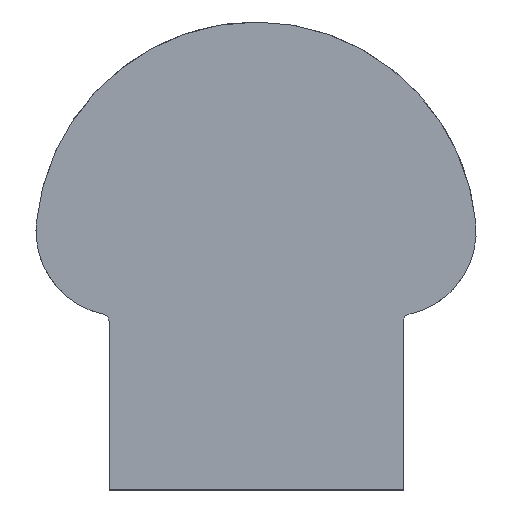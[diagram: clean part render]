
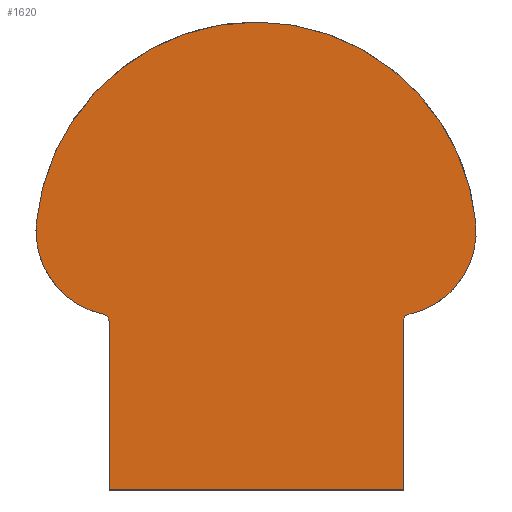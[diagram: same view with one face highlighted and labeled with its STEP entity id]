
A CAD part, left-side view. The second image highlights one B-rep face of the part: STEP entity #1620.
In plain terms, the highlighted planar face has unit normal (-1, 0, 0).
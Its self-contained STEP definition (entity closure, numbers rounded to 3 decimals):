
#86=PLANE('',#1778);
#168=FACE_OUTER_BOUND('',#272,.T.);
#272=EDGE_LOOP('',(#1362,#1363,#1364,#1365,#1366,#1367,#1368,#1369,#1370));
#339=CIRCLE('',#1760,1.384);
#341=CIRCLE('',#1763,15.943);
#343=CIRCLE('',#1766,41.454);
#345=CIRCLE('',#1769,41.454);
#347=CIRCLE('',#1772,15.943);
#349=CIRCLE('',#1775,1.384);
#461=LINE('',#3046,#604);
#465=LINE('',#3054,#608);
#468=LINE('',#3060,#611);
#604=VECTOR('',#2128,304.8);
#608=VECTOR('',#2134,304.8);
#611=VECTOR('',#2139,304.8);
#750=VERTEX_POINT('',#3044);
#751=VERTEX_POINT('',#3045);
#754=VERTEX_POINT('',#3053);
#756=VERTEX_POINT('',#3059);
#758=VERTEX_POINT('',#3065);
#760=VERTEX_POINT('',#3071);
#762=VERTEX_POINT('',#3077);
#764=VERTEX_POINT('',#3083);
#766=VERTEX_POINT('',#3089);
#952=EDGE_CURVE('',#750,#751,#461,.T.);
#956=EDGE_CURVE('',#751,#754,#465,.T.);
#959=EDGE_CURVE('',#754,#756,#468,.T.);
#962=EDGE_CURVE('',#756,#758,#339,.T.);
#965=EDGE_CURVE('',#758,#760,#341,.T.);
#968=EDGE_CURVE('',#760,#762,#343,.T.);
#971=EDGE_CURVE('',#762,#764,#345,.T.);
#974=EDGE_CURVE('',#764,#766,#347,.T.);
#977=EDGE_CURVE('',#766,#750,#349,.T.);
#1362=ORIENTED_EDGE('',*,*,#952,.T.);
#1363=ORIENTED_EDGE('',*,*,#956,.T.);
#1364=ORIENTED_EDGE('',*,*,#959,.T.);
#1365=ORIENTED_EDGE('',*,*,#962,.T.);
#1366=ORIENTED_EDGE('',*,*,#965,.T.);
#1367=ORIENTED_EDGE('',*,*,#968,.T.);
#1368=ORIENTED_EDGE('',*,*,#971,.T.);
#1369=ORIENTED_EDGE('',*,*,#974,.T.);
#1370=ORIENTED_EDGE('',*,*,#977,.T.);
#1620=ADVANCED_FACE('',(#168),#86,.T.);
#1760=AXIS2_PLACEMENT_3D('',#3066,#2144,#2145);
#1763=AXIS2_PLACEMENT_3D('',#3072,#2151,#2152);
#1766=AXIS2_PLACEMENT_3D('',#3078,#2158,#2159);
#1769=AXIS2_PLACEMENT_3D('',#3084,#2165,#2166);
#1772=AXIS2_PLACEMENT_3D('',#3090,#2172,#2173);
#1775=AXIS2_PLACEMENT_3D('',#3095,#2179,#2180);
#1778=AXIS2_PLACEMENT_3D('',#3098,#2185,#2186);
#2128=DIRECTION('',(0.,0.,-1.));
#2134=DIRECTION('',(0.,-1.,0.));
#2139=DIRECTION('',(0.,0.,1.));
#2144=DIRECTION('center_axis',(1.,0.,0.));
#2145=DIRECTION('ref_axis',(0.,0.,-1.));
#2151=DIRECTION('center_axis',(-1.,0.,0.));
#2152=DIRECTION('ref_axis',(0.,0.,
-1.));
#2158=DIRECTION('center_axis',(-1.,0.,0.));
#2159=DIRECTION('ref_axis',(0.,0.,
-1.));
#2165=DIRECTION('center_axis',(-1.,0.,0.));
#2166=DIRECTION('ref_axis',(0.,0.,
-1.));
#2172=DIRECTION('center_axis',(-1.,0.,0.));
#2173=DIRECTION('ref_axis',(0.,0.,
-1.));
#2179=DIRECTION('center_axis',(1.,0.,0.));
#2180=DIRECTION('ref_axis',(0.,0.,-1.));
#2185=DIRECTION('center_axis',(-1.,0.,0.));
#2186=DIRECTION('ref_axis',(0.,0.,-1.));
#3044=CARTESIAN_POINT('',(-142.5,27.5,31.508));
#3045=CARTESIAN_POINT('',(-142.5,27.5,0.));
#3046=CARTESIAN_POINT('',(-142.5,27.5,31.508));
#3053=CARTESIAN_POINT('',(-142.5,-27.5,0.));
#3054=CARTESIAN_POINT('',(-142.5,27.5,0.));
#3059=CARTESIAN_POINT('',(-142.5,-27.5,31.508));
#3060=CARTESIAN_POINT('',(-142.5,-27.5,0.));
#3065=CARTESIAN_POINT('',(-142.5,-28.59,32.86));
#3066=CARTESIAN_POINT('Origin',(-142.5,-28.884,31.508));
#3071=CARTESIAN_POINT('',(-142.5,-41.084,49.934));
#3072=CARTESIAN_POINT('Origin',(-142.5,-25.211,48.441));
#3077=CARTESIAN_POINT('',(-142.5,0.,87.505));
#3078=CARTESIAN_POINT('Origin',(-142.5,0.187,46.052));
#3083=CARTESIAN_POINT('',(-142.5,41.084,49.934));
#3084=CARTESIAN_POINT('Origin',(-142.5,-0.187,46.052));
#3089=CARTESIAN_POINT('',(-142.5,28.59,32.86));
#3090=CARTESIAN_POINT('Origin',(-142.5,25.211,48.441));
#3095=CARTESIAN_POINT('Origin',(-142.5,28.884,31.508));
#3098=CARTESIAN_POINT('Origin',(-142.5,27.5,0.));
